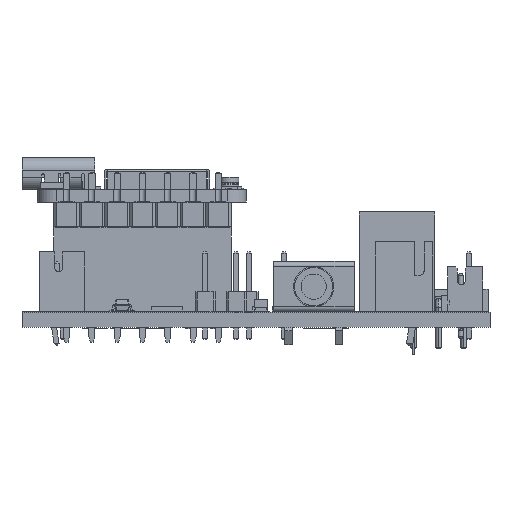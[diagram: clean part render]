
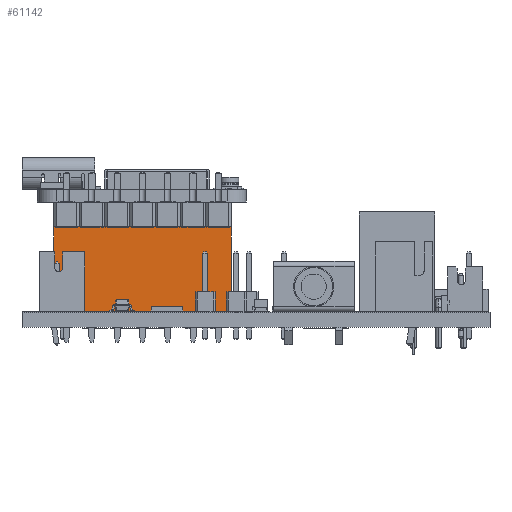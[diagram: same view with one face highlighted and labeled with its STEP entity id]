
A CAD part, left-side view. The second image highlights one B-rep face of the part: STEP entity #61142.
In plain terms, the highlighted planar face has unit normal (-1, 0, 0).
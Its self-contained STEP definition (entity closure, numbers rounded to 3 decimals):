
#60219 = VERTEX_POINT('',#60220);
#60220 = CARTESIAN_POINT('',(-1.27,-16.51,0.));
#60228 = EDGE_CURVE('',#60219,#60229,#60231,.T.);
#60229 = VERTEX_POINT('',#60230);
#60230 = CARTESIAN_POINT('',(-1.27,-16.51,8.5));
#60231 = LINE('',#60232,#60233);
#60232 = CARTESIAN_POINT('',(-1.27,-16.51,0.));
#60233 = VECTOR('',#60234,1.);
#60234 = DIRECTION('',(0.,0.,1.));
#60291 = VERTEX_POINT('',#60292);
#60292 = CARTESIAN_POINT('',(-1.27,1.27,8.5));
#60298 = EDGE_CURVE('',#60299,#60291,#60301,.T.);
#60299 = VERTEX_POINT('',#60300);
#60300 = CARTESIAN_POINT('',(-1.27,1.27,0.));
#60301 = LINE('',#60302,#60303);
#60302 = CARTESIAN_POINT('',(-1.27,1.27,0.));
#60303 = VECTOR('',#60304,1.);
#60304 = DIRECTION('',(0.,0.,1.));
#60363 = EDGE_CURVE('',#60291,#60229,#60364,.T.);
#60364 = LINE('',#60365,#60366);
#60365 = CARTESIAN_POINT('',(-1.27,1.27,8.5));
#60366 = VECTOR('',#60367,1.);
#60367 = DIRECTION('',(0.,-1.,0.));
#60624 = EDGE_CURVE('',#60299,#60219,#60625,.T.);
#60625 = LINE('',#60626,#60627);
#60626 = CARTESIAN_POINT('',(-1.27,1.27,0.));
#60627 = VECTOR('',#60628,1.);
#60628 = DIRECTION('',(0.,-1.,0.));
#61142 = ADVANCED_FACE('',(#61143),#61149,.F.);
#61143 = FACE_BOUND('',#61144,.F.);
#61144 = EDGE_LOOP('',(#61145,#61146,#61147,#61148));
#61145 = ORIENTED_EDGE('',*,*,#60298,.T.);
#61146 = ORIENTED_EDGE('',*,*,#60363,.T.);
#61147 = ORIENTED_EDGE('',*,*,#60228,.F.);
#61148 = ORIENTED_EDGE('',*,*,#60624,.F.);
#61149 = PLANE('',#61150);
#61150 = AXIS2_PLACEMENT_3D('',#61151,#61152,#61153);
#61151 = CARTESIAN_POINT('',(-1.27,1.27,0.));
#61152 = DIRECTION('',(1.,0.,0.));
#61153 = DIRECTION('',(0.,-1.,0.));
